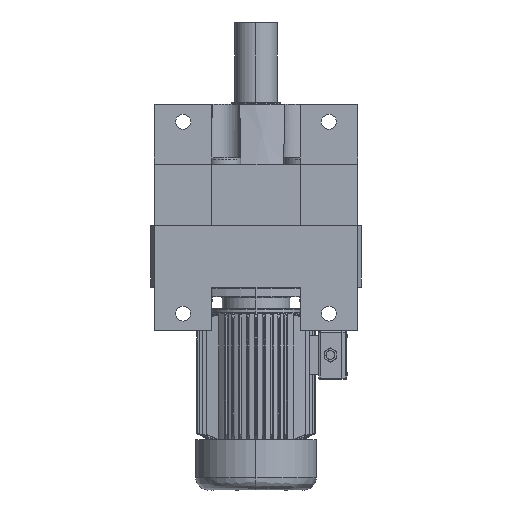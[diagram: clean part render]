
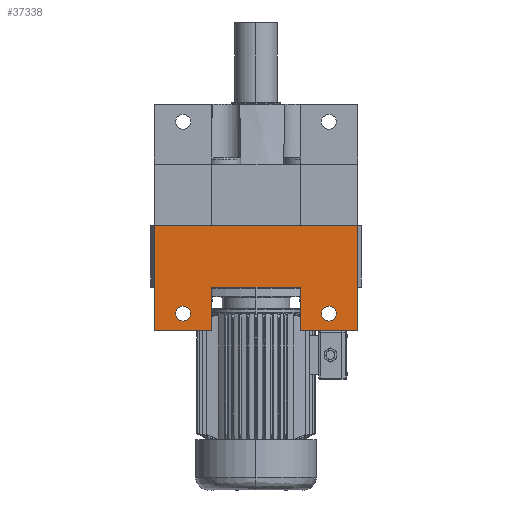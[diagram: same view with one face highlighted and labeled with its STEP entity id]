
A CAD part, front view. The second image highlights one B-rep face of the part: STEP entity #37338.
In plain terms, the highlighted planar face has unit normal (0, -1, 0).
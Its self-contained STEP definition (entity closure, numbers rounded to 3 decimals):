
#859 = CARTESIAN_POINT ( 'NONE',  ( -190., -355., -88.5 ) ) ;
#2250 = VERTEX_POINT ( 'NONE', #25806 ) ;
#2429 = LINE ( 'NONE', #3974, #5257 ) ;
#2522 = DIRECTION ( 'NONE',  ( 0., 1., 0. ) ) ;
#3142 = CARTESIAN_POINT ( 'NONE',  ( -190., -355., -49.5 ) ) ;
#3247 = LINE ( 'NONE', #16264, #28343 ) ;
#3974 = CARTESIAN_POINT ( 'NONE',  ( 265., -355., 160.333 ) ) ;
#4321 = LINE ( 'NONE', #8464, #40679 ) ;
#4356 = CARTESIAN_POINT ( 'NONE',  ( 115., -355., 160.333 ) ) ;
#4505 = VECTOR ( 'NONE', #5005, 1000. ) ;
#4650 = CARTESIAN_POINT ( 'NONE',  ( 190., -355., -49.5 ) ) ;
#4737 = VERTEX_POINT ( 'NONE', #859 ) ;
#4956 = ORIENTED_EDGE ( 'NONE', *, *, #8870, .F. ) ;
#4990 = ORIENTED_EDGE ( 'NONE', *, *, #34464, .T. ) ;
#5005 = DIRECTION ( 'NONE',  ( 0., 0., 1. ) ) ;
#5112 = LINE ( 'NONE', #4356, #4505 ) ;
#5257 = VECTOR ( 'NONE', #22543, 1000. ) ;
#5875 = CARTESIAN_POINT ( 'NONE',  ( 190., -355., -69. ) ) ;
#6000 = CARTESIAN_POINT ( 'NONE',  ( 265., -355., -114. ) ) ;
#6207 = ORIENTED_EDGE ( 'NONE', *, *, #46531, .F. ) ;
#6316 = DIRECTION ( 'NONE',  ( -1., 0., 0. ) ) ;
#6399 = EDGE_CURVE ( 'NONE', #2250, #20650, #5112, .T. ) ;
#7814 = LINE ( 'NONE', #36037, #45336 ) ;
#8240 = VERTEX_POINT ( 'NONE', #8974 ) ;
#8464 = CARTESIAN_POINT ( 'NONE',  ( 219.2, -355., 160.333 ) ) ;
#8620 = DIRECTION ( 'NONE',  ( -1., 0., 0. ) ) ;
#8870 = EDGE_CURVE ( 'NONE', #17497, #4737, #40362, .T. ) ;
#8918 = CARTESIAN_POINT ( 'NONE',  ( -190., -355., -69. ) ) ;
#8974 = CARTESIAN_POINT ( 'NONE',  ( 265., -355., 160.333 ) ) ;
#10714 = VERTEX_POINT ( 'NONE', #6000 ) ;
#11285 = LINE ( 'NONE', #30813, #37955 ) ;
#11721 = CIRCLE ( 'NONE', #25590, 19.5 ) ;
#11815 = VECTOR ( 'NONE', #22375, 1000. ) ;
#11883 = EDGE_CURVE ( 'NONE', #8240, #10714, #2429, .T. ) ;
#12942 = CARTESIAN_POINT ( 'NONE',  ( -265., -355., 160.333 ) ) ;
#13832 = ORIENTED_EDGE ( 'NONE', *, *, #11883, .F. ) ;
#15428 = EDGE_CURVE ( 'NONE', #39916, #16886, #11721, .T. ) ;
#16003 = EDGE_LOOP ( 'NONE', ( #4956, #30370 ) ) ;
#16264 = CARTESIAN_POINT ( 'NONE',  ( -265., -355., 160.333 ) ) ;
#16359 = EDGE_CURVE ( 'NONE', #20650, #20977, #11285, .T. ) ;
#16373 = AXIS2_PLACEMENT_3D ( 'NONE', #5875, #34491, #23851 ) ;
#16809 = VECTOR ( 'NONE', #8620, 1000. ) ;
#16886 = VERTEX_POINT ( 'NONE', #4650 ) ;
#17158 = CIRCLE ( 'NONE', #16373, 19.5 ) ;
#17212 = ORIENTED_EDGE ( 'NONE', *, *, #46901, .F. ) ;
#17328 = CIRCLE ( 'NONE', #20261, 19.5 ) ;
#17497 = VERTEX_POINT ( 'NONE', #3142 ) ;
#17826 = ORIENTED_EDGE ( 'NONE', *, *, #16359, .F. ) ;
#18551 = AXIS2_PLACEMENT_3D ( 'NONE', #8918, #30870, #41931 ) ;
#19380 = CARTESIAN_POINT ( 'NONE',  ( -190., -355., -69. ) ) ;
#19639 = DIRECTION ( 'NONE',  ( 0., 0., 1. ) ) ;
#19806 = DIRECTION ( 'NONE',  ( -1., 0., 0. ) ) ;
#20261 = AXIS2_PLACEMENT_3D ( 'NONE', #19380, #44304, #37630 ) ;
#20615 = VERTEX_POINT ( 'NONE', #41173 ) ;
#20650 = VERTEX_POINT ( 'NONE', #37849 ) ;
#20977 = VERTEX_POINT ( 'NONE', #43706 ) ;
#22375 = DIRECTION ( 'NONE',  ( 0., 0., 1. ) ) ;
#22512 = FACE_BOUND ( 'NONE', #16003, .T. ) ;
#22514 = VERTEX_POINT ( 'NONE', #32785 ) ;
#22543 = DIRECTION ( 'NONE',  ( 0., 0., -1. ) ) ;
#23851 = DIRECTION ( 'NONE',  ( 0., 0., 1. ) ) ;
#24593 = EDGE_CURVE ( 'NONE', #4737, #17497, #17328, .T. ) ;
#24804 = CARTESIAN_POINT ( 'NONE',  ( 190., -355., -69. ) ) ;
#25590 = AXIS2_PLACEMENT_3D ( 'NONE', #24804, #46657, #32429 ) ;
#25806 = CARTESIAN_POINT ( 'NONE',  ( 115., -355., -114. ) ) ;
#28343 = VECTOR ( 'NONE', #19639, 1000. ) ;
#29414 = CARTESIAN_POINT ( 'NONE',  ( 190., -355., -88.5 ) ) ;
#30370 = ORIENTED_EDGE ( 'NONE', *, *, #24593, .F. ) ;
#30813 = CARTESIAN_POINT ( 'NONE',  ( 126.06, -355., 0. ) ) ;
#30870 = DIRECTION ( 'NONE',  ( 0., -1., 0. ) ) ;
#32429 = DIRECTION ( 'NONE',  ( 0., 0., 1. ) ) ;
#32785 = CARTESIAN_POINT ( 'NONE',  ( -265., -355., -114. ) ) ;
#33002 = ORIENTED_EDGE ( 'NONE', *, *, #15428, .F. ) ;
#34304 = EDGE_LOOP ( 'NONE', ( #39793, #33002 ) ) ;
#34464 = EDGE_CURVE ( 'NONE', #20615, #20977, #39068, .T. ) ;
#34491 = DIRECTION ( 'NONE',  ( 0., -1., 0. ) ) ;
#35106 = CARTESIAN_POINT ( 'NONE',  ( 219.2, -355., 160.333 ) ) ;
#36037 = CARTESIAN_POINT ( 'NONE',  ( 219.2, -355., -114. ) ) ;
#36177 = FACE_OUTER_BOUND ( 'NONE', #44245, .T. ) ;
#36438 = ORIENTED_EDGE ( 'NONE', *, *, #46858, .F. ) ;
#36953 = AXIS2_PLACEMENT_3D ( 'NONE', #35106, #2522, #6316 ) ;
#37338 = ADVANCED_FACE ( 'NONE', ( #36177, #37883, #22512 ), #39227, .F. ) ;
#37630 = DIRECTION ( 'NONE',  ( 0., 0., 1. ) ) ;
#37849 = CARTESIAN_POINT ( 'NONE',  ( 115., -355., 0. ) ) ;
#37883 = FACE_BOUND ( 'NONE', #34304, .T. ) ;
#37955 = VECTOR ( 'NONE', #19806, 1000. ) ;
#39068 = LINE ( 'NONE', #44156, #11815 ) ;
#39227 = PLANE ( 'NONE',  #36953 ) ;
#39679 = DIRECTION ( 'NONE',  ( -1., 0., 0. ) ) ;
#39793 = ORIENTED_EDGE ( 'NONE', *, *, #45174, .F. ) ;
#39799 = EDGE_CURVE ( 'NONE', #20615, #22514, #7814, .T. ) ;
#39916 = VERTEX_POINT ( 'NONE', #29414 ) ;
#40362 = CIRCLE ( 'NONE', #18551, 19.5 ) ;
#40679 = VECTOR ( 'NONE', #44826, 1000. ) ;
#41173 = CARTESIAN_POINT ( 'NONE',  ( -115., -355., -114. ) ) ;
#41345 = VERTEX_POINT ( 'NONE', #12942 ) ;
#41931 = DIRECTION ( 'NONE',  ( 0., 0., 1. ) ) ;
#43465 = ORIENTED_EDGE ( 'NONE', *, *, #6399, .F. ) ;
#43706 = CARTESIAN_POINT ( 'NONE',  ( -115., -355., 0. ) ) ;
#44156 = CARTESIAN_POINT ( 'NONE',  ( -115., -355., 476. ) ) ;
#44245 = EDGE_LOOP ( 'NONE', ( #36438, #6207, #46163, #4990, #17826, #43465, #17212, #13832 ) ) ;
#44304 = DIRECTION ( 'NONE',  ( 0., -1., 0. ) ) ;
#44669 = CARTESIAN_POINT ( 'NONE',  ( 219.2, -355., -114. ) ) ;
#44826 = DIRECTION ( 'NONE',  ( 1., 0., 0. ) ) ;
#45174 = EDGE_CURVE ( 'NONE', #16886, #39916, #17158, .T. ) ;
#45336 = VECTOR ( 'NONE', #39679, 1000. ) ;
#45823 = LINE ( 'NONE', #44669, #16809 ) ;
#46163 = ORIENTED_EDGE ( 'NONE', *, *, #39799, .F. ) ;
#46531 = EDGE_CURVE ( 'NONE', #22514, #41345, #3247, .T. ) ;
#46657 = DIRECTION ( 'NONE',  ( 0., -1., 0. ) ) ;
#46858 = EDGE_CURVE ( 'NONE', #41345, #8240, #4321, .T. ) ;
#46901 = EDGE_CURVE ( 'NONE', #10714, #2250, #45823, .T. ) ;
